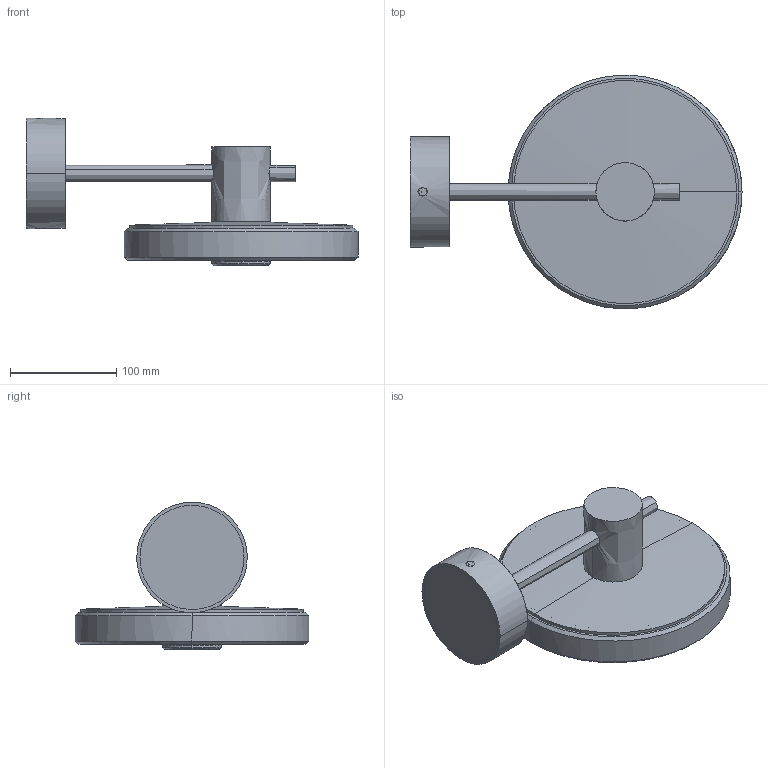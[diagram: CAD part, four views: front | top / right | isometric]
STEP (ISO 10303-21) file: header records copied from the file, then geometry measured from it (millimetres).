
FILE_DESCRIPTION(/* description */ (''),/* implementation_level */ '2;1');
FILE_NAME(/* name */ 'EA048.022',/* time_stamp */ '2024-09-03T14:30:07+02:00',/* author */ (''),/* organization */ (''),/* preprocessor_version */ 'ST-DEVELOPER v16.5',/* originating_system */ '',/* authorisation */ '');
FILE_SCHEMA (('AUTOMOTIVE_DESIGN'));
Length unit declared in the file: millimetre
Products named in the file (1): Document
Bounding box: 312.5 x 219.6 x 138.83 mm (x, y, z)
Volume: 1622766.2 mm3; surface area: 257783.1 mm2
Topology: 17 solids, 17 shells, 389 faces, 922 edges, 551 vertices
Faces by surface type: bspline 294, plane 95
Entity records: 22316 total; most frequent: CARTESIAN_POINT 17059, ORIENTED_EDGE 1794, EDGE_CURVE 897, VERTEX_POINT 551, EDGE_LOOP 430, B_SPLINE_CURVE_WITH_KNOTS 404, ADVANCED_FACE 389, FACE_OUTER_BOUND 389
